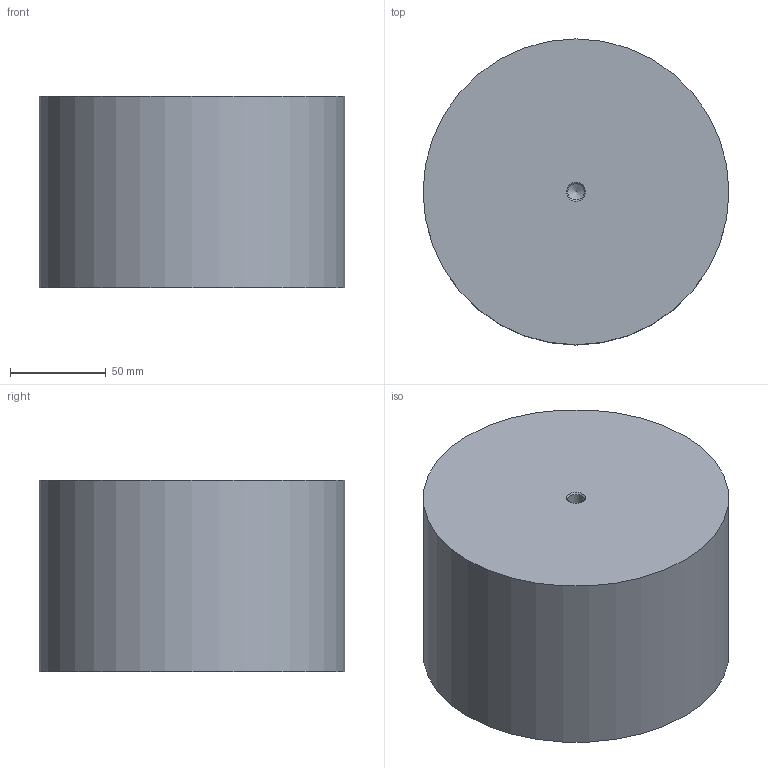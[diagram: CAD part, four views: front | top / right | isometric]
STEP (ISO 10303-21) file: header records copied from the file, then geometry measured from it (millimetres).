
FILE_DESCRIPTION(/* description */ (''),/* implementation_level */ '2;1');
FILE_NAME(/* name */ 'TRAYLOADER.101.stp',/* time_stamp */ '2025-05-12T17:11:31+02:00',/* author */ (''),/* organization */ (''),/* preprocessor_version */ 'ST-DEVELOPER v19.4',/* originating_system */ 'SIEMENS PLM Software NX2306.5001',/* authorisation */ '');
FILE_SCHEMA (('AP203_CONFIGURATION_CONTROLLED_3D_DESIGN_OF_MECHANICAL_PARTS_AND_ASSEMBLIES_MIM_LF { 1 0 10303 403 2 1 2}'));
Length unit declared in the file: millimetre
Products named in the file (1): TRAYLOADER.101_objects
Bounding box: 160 x 160 x 100 mm (x, y, z)
Volume: 2006194.2 mm3; surface area: 92504.2 mm2
Topology: 1 solids, 1 shells, 9 faces, 19 edges, 12 vertices
Faces by surface type: cone 4, cylinder 3, plane 2
Full cylindrical faces by diameter (mm): 8.5 x2, 160 x1
Entity records: 268 total; most frequent: DIRECTION 36, CARTESIAN_POINT 28, FACE_BOUND 18, AXIS2_PLACEMENT_3D 18, EDGE_LOOP 16, ORIENTED_EDGE 16, VERTEX_POINT 10, ADVANCED_FACE 9
